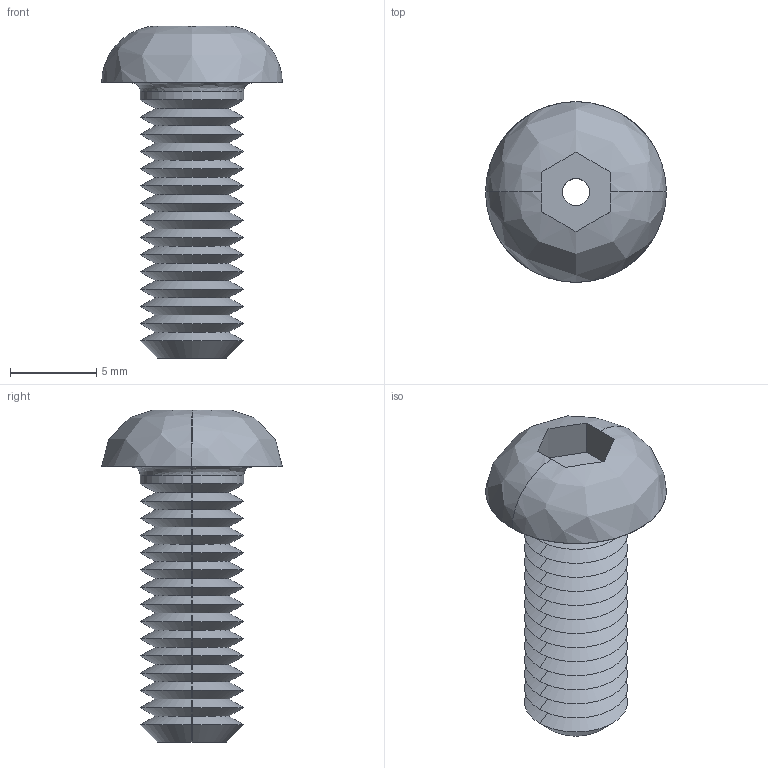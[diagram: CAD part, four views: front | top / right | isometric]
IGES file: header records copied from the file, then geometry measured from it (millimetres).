
Start section: SolidWorks IGES file using analytic representation for surfaces
Global section: file name: C:\Users\liam_\OneDrive\Documents\WORK\Work for WixRoyd\Job Files\J-00019 - Matt Davis CAD Checking\04. CAD Drawings\automotion20190605\P0094_v2\P0094_v2_20190712_IGES\P0094.060-016-A2.igs; native system: SolidWorks 2017; preprocessor: SolidWorks 2017; author: liam_; date: 190712.175537; units: millimetre
Bounding box: 10.5 x 10.5 x 19.3 mm (x, y, z)
Surface area: 814.8 mm2 (no closed solid volume)
Topology: 0 solids, 0 shells, 75 faces, 462 edges, 462 vertices
Faces by surface type: revolution 62, bspline 13
